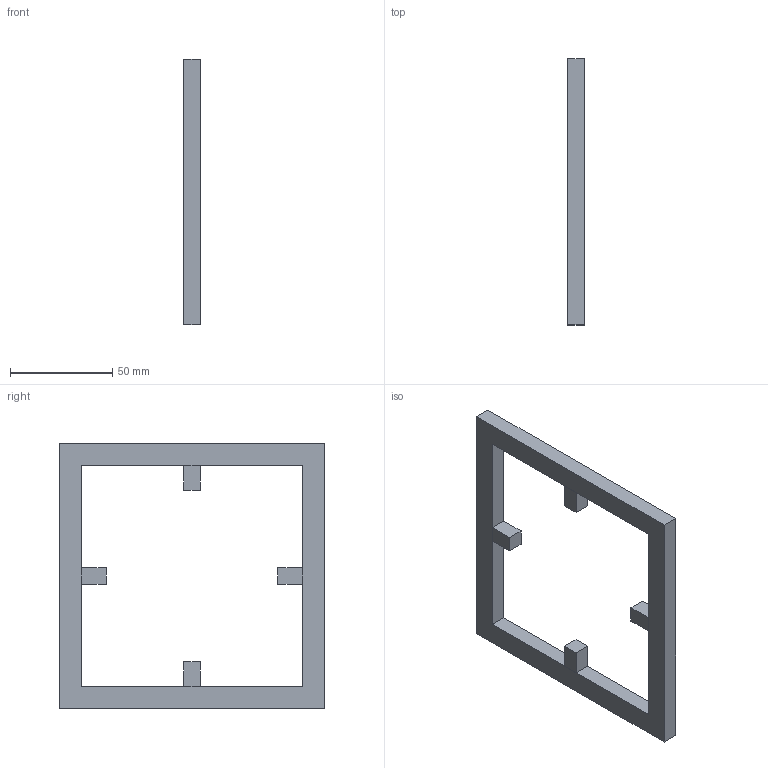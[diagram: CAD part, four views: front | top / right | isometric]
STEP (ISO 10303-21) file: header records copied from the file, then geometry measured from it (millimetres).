
FILE_DESCRIPTION(('Open CASCADE Model'),'2;1');
FILE_NAME('Open CASCADE Shape Model','2026-08-14T13:04:22',('Author'),( 'Open CASCADE'),'Open CASCADE STEP processor 7.7','Open CASCADE 7.7' ,'Unknown');
FILE_SCHEMA(('AUTOMOTIVE_DESIGN { 1 0 10303 214 1 1 1 1 }'));
Length unit declared in the file: millimetre
Products named in the file (6): Open CASCADE STEP translator 7.7 6; Open CASCADE STEP translator 7.7 6.1; Open CASCADE STEP translator 7.7 6.2; Open CASCADE STEP translator 7.7 6.3; Open CASCADE STEP translator 7.7 6.4; Open CASCADE STEP translator 7.7 6.5
Assembly tree (5 placements, depth 2):
  Open CASCADE STEP translator 7.7 6
    Open CASCADE STEP translator 7.7 6.1
    Open CASCADE STEP translator 7.7 6.2
    Open CASCADE STEP translator 7.7 6.3
    Open CASCADE STEP translator 7.7 6.4
    Open CASCADE STEP translator 7.7 6.5
Bounding box: 8 x 130 x 130 mm (x, y, z)
Volume: 44960 mm3; surface area: 20136 mm2
Topology: 5 solids, 5 shells, 34 faces, 72 edges, 48 vertices
Faces by surface type: plane 34
Entity records: 1912 total; most frequent: CARTESIAN_POINT 320, DIRECTION 280, LINE 200, VECTOR 200, ORIENTED_EDGE 144, PCURVE 144, DEFINITIONAL_REPRESENTATION 144, EDGE_CURVE 72
